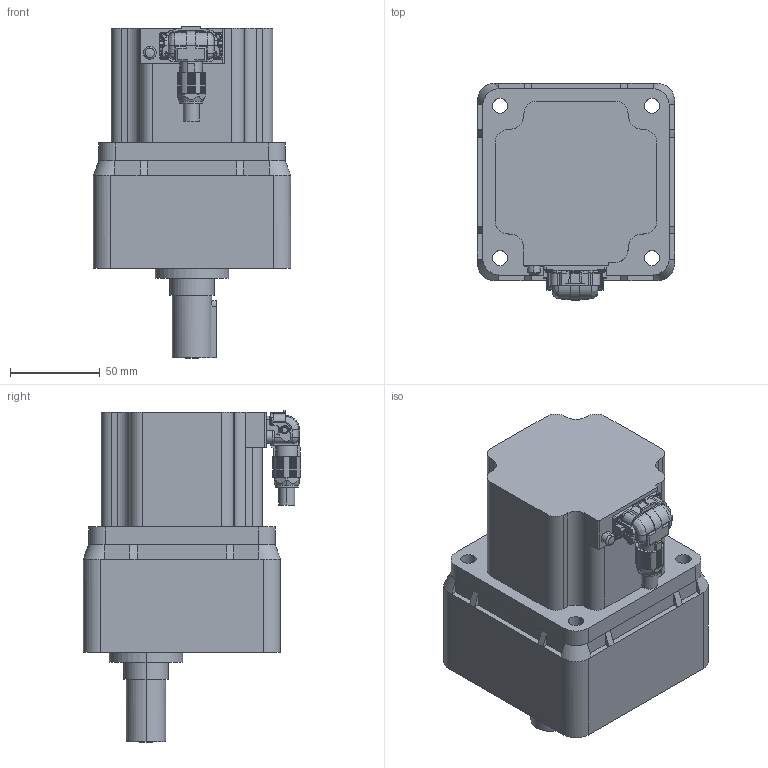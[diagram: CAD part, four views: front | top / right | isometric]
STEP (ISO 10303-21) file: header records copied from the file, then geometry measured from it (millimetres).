
FILE_DESCRIPTION (( 'STEP AP203' ), '1' );
FILE_NAME ('A1732A_F.step', '2020-01-30T05:15:01', ( '' ), ( '' ), 'SwSTEP 2.0', 'SolidWorks 2017', '' );
FILE_SCHEMA (( 'CONFIG_CONTROL_DESIGN' ));
Length unit declared in the file: millimetre
Products named in the file (1): A1732A_F
Bounding box: 110 x 121.3 x 185.2 mm (x, y, z)
Volume: 1306976.4 mm3; surface area: 115019 mm2
Topology: 2 solids, 8 shells, 684 faces, 1844 edges, 1192 vertices
Faces by surface type: plane 388, cylinder 254, bspline 28, cone 14
Entity records: 23126 total; most frequent: CARTESIAN_POINT 5616, ORIENTED_EDGE 3676, DIRECTION 3665, EDGE_CURVE 1838, AXIS2_PLACEMENT_3D 1234, VECTOR 1197, LINE 1197, VERTEX_POINT 1192
